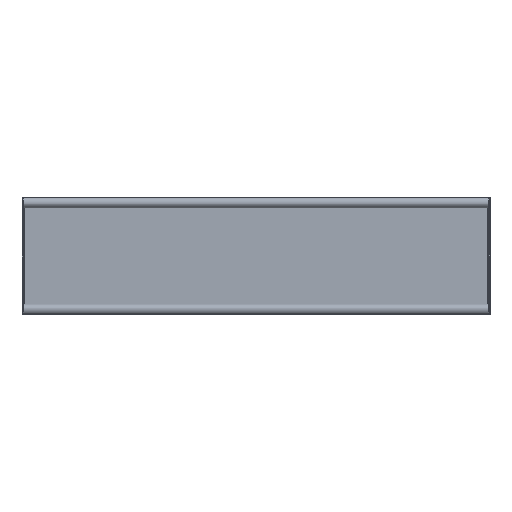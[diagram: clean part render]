
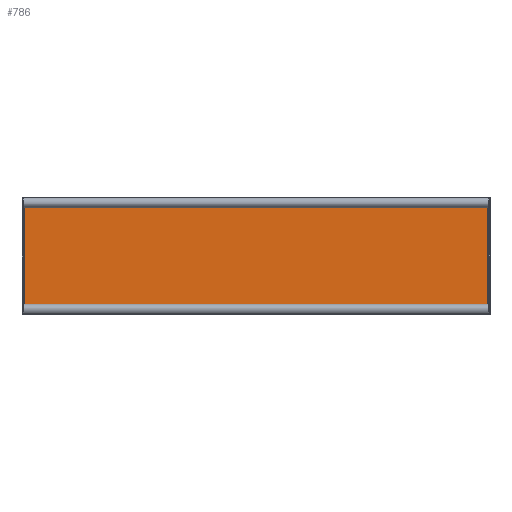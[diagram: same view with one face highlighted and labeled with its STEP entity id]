
A CAD part, front view. The second image highlights one B-rep face of the part: STEP entity #786.
In plain terms, the highlighted planar face has unit normal (0, -1, 0).
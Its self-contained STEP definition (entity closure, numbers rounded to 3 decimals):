
#213 = VERTEX_POINT ( 'NONE', #6872 ) ;
#303 = CARTESIAN_POINT ( 'NONE',  ( -445., -2., -108.5 ) ) ;
#312 = ORIENTED_EDGE ( 'NONE', *, *, #5120, .F. ) ;
#384 = CARTESIAN_POINT ( 'NONE',  ( 449., -2., -111.5 ) ) ;
#474 = ORIENTED_EDGE ( 'NONE', *, *, #549, .F. ) ;
#549 = EDGE_CURVE ( 'NONE', #5408, #6130, #9550, .T. ) ;
#724 = CARTESIAN_POINT ( 'NONE',  ( 449., -2., 111.5 ) ) ;
#726 = EDGE_CURVE ( 'NONE', #6080, #8966, #6744, .T. ) ;
#765 = EDGE_LOOP ( 'NONE', ( #3726, #5219, #5244, #474, #4423, #8873, #312, #3259 ) ) ;
#786 = ADVANCED_FACE ( 'NONE', ( #4634 ), #876, .F. ) ;
#843 = EDGE_CURVE ( 'NONE', #6130, #4930, #5662, .T. ) ;
#876 = PLANE ( 'NONE',  #9674 ) ;
#1130 = CIRCLE ( 'NONE', #4974, 5. ) ;
#1259 = DIRECTION ( 'NONE',  ( 1., 0., 0. ) ) ;
#1447 = LINE ( 'NONE', #4602, #6897 ) ;
#1460 = CARTESIAN_POINT ( 'NONE',  ( 446., -2., -111.5 ) ) ;
#1641 = DIRECTION ( 'NONE',  ( 0., -1., 0. ) ) ;
#1665 = CARTESIAN_POINT ( 'NONE',  ( 446., -2., 107.5 ) ) ;
#1975 = CARTESIAN_POINT ( 'NONE',  ( -449., -2., 111.5 ) ) ;
#2400 = DIRECTION ( 'NONE',  ( 0., 0., 1. ) ) ;
#2465 = AXIS2_PLACEMENT_3D ( 'NONE', #384, #8808, #3436 ) ;
#2521 = CARTESIAN_POINT ( 'NONE',  ( -449., -2., -111.5 ) ) ;
#2813 = CARTESIAN_POINT ( 'NONE',  ( 445., -2., 108.5 ) ) ;
#2984 = DIRECTION ( 'NONE',  ( 0., 0., 1. ) ) ;
#3259 = ORIENTED_EDGE ( 'NONE', *, *, #4154, .T. ) ;
#3436 = DIRECTION ( 'NONE',  ( 0., 0., 1. ) ) ;
#3604 = CIRCLE ( 'NONE', #6785, 5. ) ;
#3726 = ORIENTED_EDGE ( 'NONE', *, *, #726, .F. ) ;
#3851 = EDGE_CURVE ( 'NONE', #6080, #4930, #5274, .T. ) ;
#3923 = VERTEX_POINT ( 'NONE', #303 ) ;
#4154 = EDGE_CURVE ( 'NONE', #3923, #8966, #7291, .T. ) ;
#4346 = CARTESIAN_POINT ( 'NONE',  ( -445., -2., 108.5 ) ) ;
#4423 = ORIENTED_EDGE ( 'NONE', *, *, #5863, .F. ) ;
#4602 = CARTESIAN_POINT ( 'NONE',  ( -446., -2., -111.5 ) ) ;
#4634 = FACE_OUTER_BOUND ( 'NONE', #765, .T. ) ;
#4930 = VERTEX_POINT ( 'NONE', #1665 ) ;
#4974 = AXIS2_PLACEMENT_3D ( 'NONE', #1975, #7256, #5019 ) ;
#5019 = DIRECTION ( 'NONE',  ( 0., 0., 1. ) ) ;
#5120 = EDGE_CURVE ( 'NONE', #3923, #6747, #3604, .T. ) ;
#5219 = ORIENTED_EDGE ( 'NONE', *, *, #3851, .T. ) ;
#5244 = ORIENTED_EDGE ( 'NONE', *, *, #843, .F. ) ;
#5274 = LINE ( 'NONE', #1460, #9865 ) ;
#5408 = VERTEX_POINT ( 'NONE', #4346 ) ;
#5662 = CIRCLE ( 'NONE', #8703, 5. ) ;
#5750 = DIRECTION ( 'NONE',  ( 1., 0., 0. ) ) ;
#5863 = EDGE_CURVE ( 'NONE', #213, #5408, #1130, .T. ) ;
#6080 = VERTEX_POINT ( 'NONE', #9382 ) ;
#6130 = VERTEX_POINT ( 'NONE', #2813 ) ;
#6449 = CARTESIAN_POINT ( 'NONE',  ( -449., -2., -108.5 ) ) ;
#6744 = CIRCLE ( 'NONE', #2465, 5. ) ;
#6747 = VERTEX_POINT ( 'NONE', #9752 ) ;
#6785 = AXIS2_PLACEMENT_3D ( 'NONE', #2521, #7698, #7804 ) ;
#6825 = CARTESIAN_POINT ( 'NONE',  ( -449., -2., -111.5 ) ) ;
#6872 = CARTESIAN_POINT ( 'NONE',  ( -446., -2., 107.5 ) ) ;
#6897 = VECTOR ( 'NONE', #9881, 1000. ) ;
#7256 = DIRECTION ( 'NONE',  ( 0., -1., 0. ) ) ;
#7291 = LINE ( 'NONE', #6449, #9226 ) ;
#7510 = DIRECTION ( 'NONE',  ( 0., 0., 1. ) ) ;
#7561 = CARTESIAN_POINT ( 'NONE',  ( 445., -2., -108.5 ) ) ;
#7695 = EDGE_CURVE ( 'NONE', #6747, #213, #1447, .T. ) ;
#7698 = DIRECTION ( 'NONE',  ( 0., -1., 0. ) ) ;
#7804 = DIRECTION ( 'NONE',  ( 0., 0., 1. ) ) ;
#8388 = DIRECTION ( 'NONE',  ( 0., 1., 0. ) ) ;
#8703 = AXIS2_PLACEMENT_3D ( 'NONE', #724, #1641, #2400 ) ;
#8808 = DIRECTION ( 'NONE',  ( 0., -1., 0. ) ) ;
#8833 = CARTESIAN_POINT ( 'NONE',  ( -449., -2., 108.5 ) ) ;
#8873 = ORIENTED_EDGE ( 'NONE', *, *, #7695, .F. ) ;
#8966 = VERTEX_POINT ( 'NONE', #7561 ) ;
#9226 = VECTOR ( 'NONE', #5750, 1000. ) ;
#9382 = CARTESIAN_POINT ( 'NONE',  ( 446., -2., -107.5 ) ) ;
#9505 = VECTOR ( 'NONE', #1259, 1000. ) ;
#9550 = LINE ( 'NONE', #8833, #9505 ) ;
#9674 = AXIS2_PLACEMENT_3D ( 'NONE', #6825, #8388, #2984 ) ;
#9752 = CARTESIAN_POINT ( 'NONE',  ( -446., -2., -107.5 ) ) ;
#9865 = VECTOR ( 'NONE', #7510, 1000. ) ;
#9881 = DIRECTION ( 'NONE',  ( 0., 0., 1. ) ) ;
